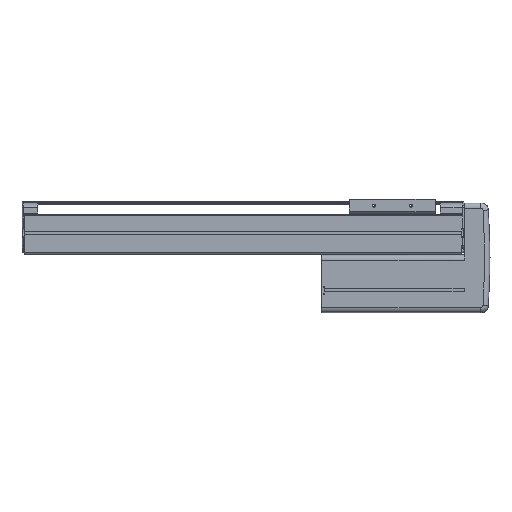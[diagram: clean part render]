
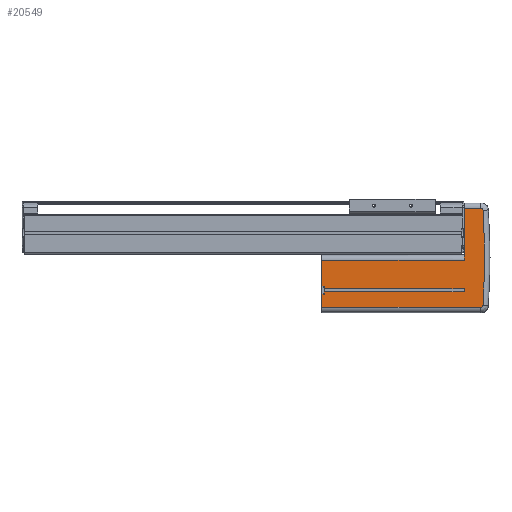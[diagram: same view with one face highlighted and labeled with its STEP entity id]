
A CAD part, top view. The second image highlights one B-rep face of the part: STEP entity #20549.
In plain terms, the highlighted planar face has unit normal (0, 0, 1).
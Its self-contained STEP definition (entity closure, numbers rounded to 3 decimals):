
#4139=DIRECTION('',(1.,0.,0.));
#4140=VECTOR('',#4139,22.587);
#4141=CARTESIAN_POINT('',(594.,-70.,33.));
#4142=LINE('',#4141,#4140);
#4151=DIRECTION('',(-1.,0.,0.));
#4152=VECTOR('',#4151,192.);
#4153=CARTESIAN_POINT('',(594.,-70.,33.));
#4154=LINE('',#4153,#4152);
#4155=DIRECTION('',(0.,-1.,0.));
#4156=VECTOR('',#4155,17.5);
#4157=CARTESIAN_POINT('',(402.,-52.5,33.));
#4158=LINE('',#4157,#4156);
#4159=DIRECTION('',(0.,-1.,0.));
#4160=VECTOR('',#4159,3.4);
#4161=CARTESIAN_POINT('',(405.,-49.1,33.));
#4162=LINE('',#4161,#4160);
#4163=DIRECTION('',(0.,1.,0.));
#4164=VECTOR('',#4163,4.2);
#4165=CARTESIAN_POINT('',(594.,-49.1,33.));
#4166=LINE('',#4165,#4164);
#4167=DIRECTION('',(0.,-1.,0.));
#4168=VECTOR('',#4167,3.4);
#4169=CARTESIAN_POINT('',(405.,-41.5,33.));
#4170=LINE('',#4169,#4168);
#4171=DIRECTION('',(0.,-1.,0.));
#4172=VECTOR('',#4171,35.5);
#4173=CARTESIAN_POINT('',(402.,-6.,33.));
#4174=LINE('',#4173,#4172);
#4175=DIRECTION('',(0.,1.,0.));
#4176=VECTOR('',#4175,70.);
#4177=CARTESIAN_POINT('',(594.,-6.,33.));
#4178=LINE('',#4177,#4176);
#4179=CARTESIAN_POINT('',(616.587,60.999,33.));
#4180=DIRECTION('',(0.,0.,-1.));
#4181=DIRECTION('',(0.,1.,0.));
#4182=AXIS2_PLACEMENT_3D('',#4179,#4180,#4181);
#4184=CARTESIAN_POINT('',(-371.,-3.,33.));
#4185=DIRECTION('',(0.,0.,-1.));
#4186=DIRECTION('',(0.998,0.065,0.));
#4187=AXIS2_PLACEMENT_3D('',#4184,#4185,#4186);
#4189=CARTESIAN_POINT('',(616.587,-66.999,33.));
#4190=DIRECTION('',(0.,0.,-1.));
#4191=DIRECTION('',(0.998,-0.065,0.));
#4192=AXIS2_PLACEMENT_3D('',#4189,#4190,#4191);
#4194=DIRECTION('',(-1.,0.,0.));
#4195=VECTOR('',#4194,3.);
#4196=CARTESIAN_POINT('',(405.,-52.5,33.));
#4197=LINE('',#4196,#4195);
#4226=DIRECTION('',(1.,0.,0.));
#4227=VECTOR('',#4226,3.);
#4228=CARTESIAN_POINT('',(402.,-41.5,33.));
#4229=LINE('',#4228,#4227);
#4234=DIRECTION('',(-1.,0.,0.));
#4235=VECTOR('',#4234,189.);
#4236=CARTESIAN_POINT('',(594.,-49.1,33.));
#4237=LINE('',#4236,#4235);
#4322=DIRECTION('',(1.,0.,0.));
#4323=VECTOR('',#4322,189.);
#4324=CARTESIAN_POINT('',(405.,-44.9,33.));
#4325=LINE('',#4324,#4323);
#4331=DIRECTION('',(-1.,0.,0.));
#4332=VECTOR('',#4331,192.);
#4333=CARTESIAN_POINT('',(594.,-6.,33.));
#4334=LINE('',#4333,#4332);
#9246=DIRECTION('',(-1.,0.,0.));
#9247=VECTOR('',#9246,22.587);
#9248=CARTESIAN_POINT('',(616.587,64.,33.));
#9249=LINE('',#9248,#9247);
#12208=CARTESIAN_POINT('',(402.,-6.,33.));
#12209=CARTESIAN_POINT('',(402.,-41.5,33.));
#12210=VERTEX_POINT('',#12208);
#12211=VERTEX_POINT('',#12209);
#12220=CARTESIAN_POINT('',(402.,-52.5,33.));
#12221=VERTEX_POINT('',#12220);
#12222=CARTESIAN_POINT('',(402.,-70.,33.));
#12223=VERTEX_POINT('',#12222);
#12449=CARTESIAN_POINT('',(594.,64.,33.));
#12451=VERTEX_POINT('',#12449);
#12464=CARTESIAN_POINT('',(616.587,-70.,
33.));
#12465=VERTEX_POINT('',#12464);
#12466=CARTESIAN_POINT('',(619.582,-67.194,
33.));
#12467=VERTEX_POINT('',#12466);
#12468=CARTESIAN_POINT('',(619.582,61.194,33.));
#12469=VERTEX_POINT('',#12468);
#12470=CARTESIAN_POINT('',(616.587,64.,33.));
#12471=VERTEX_POINT('',#12470);
#12694=CARTESIAN_POINT('',(405.,-44.9,33.));
#12696=VERTEX_POINT('',#12694);
#12707=CARTESIAN_POINT('',(405.,-49.1,33.));
#12708=VERTEX_POINT('',#12707);
#14925=CARTESIAN_POINT('',(405.,-52.5,33.));
#14927=VERTEX_POINT('',#14925);
#14935=CARTESIAN_POINT('',(405.,-41.5,33.));
#14936=VERTEX_POINT('',#14935);
#15103=CARTESIAN_POINT('',(594.,-6.,33.));
#15104=VERTEX_POINT('',#15103);
#15105=CARTESIAN_POINT('',(594.,-44.9,33.));
#15106=VERTEX_POINT('',#15105);
#15107=CARTESIAN_POINT('',(594.,-49.1,33.));
#15108=VERTEX_POINT('',#15107);
#15109=CARTESIAN_POINT('',(594.,-70.,33.));
#15110=VERTEX_POINT('',#15109);
#20518=CARTESIAN_POINT('',(499.5,-25.45,33.));
#20519=DIRECTION('',(0.,0.,1.));
#20520=DIRECTION('',(0.,1.,0.));
#20521=AXIS2_PLACEMENT_3D('',#20518,#20519,#20520);
#20522=PLANE('',#20521);
#20523=ORIENTED_EDGE('',*,*,#20509,.F.);
#20524=ORIENTED_EDGE('',*,*,#20507,.T.);
#20525=ORIENTED_EDGE('',*,*,#15668,.F.);
#20527=ORIENTED_EDGE('',*,*,#20526,.F.);
#20528=ORIENTED_EDGE('',*,*,#17091,.F.);
#20530=ORIENTED_EDGE('',*,*,#20529,.F.);
#20531=ORIENTED_EDGE('',*,*,#19546,.T.);
#20533=ORIENTED_EDGE('',*,*,#20532,.F.);
#20534=ORIENTED_EDGE('',*,*,#17075,.F.);
#20536=ORIENTED_EDGE('',*,*,#20535,.F.);
#20537=ORIENTED_EDGE('',*,*,#15656,.F.);
#20539=ORIENTED_EDGE('',*,*,#20538,.F.);
#20540=ORIENTED_EDGE('',*,*,#19522,.T.);
#20542=ORIENTED_EDGE('',*,*,#20541,.F.);
#20544=ORIENTED_EDGE('',*,*,#20543,.T.);
#20545=ORIENTED_EDGE('',*,*,#20469,.T.);
#20546=ORIENTED_EDGE('',*,*,#20496,.T.);
#20547=EDGE_LOOP('',(#20523,#20524,#20525,#20527,#20528,#20530,#20531,#20533,
#20534,#20536,#20537,#20539,#20540,#20542,#20544,#20545,#20546));
#20548=FACE_OUTER_BOUND('',#20547,.F.);
#20549=ADVANCED_FACE('',(#20548),#20522,.T.);
#4183=CIRCLE('',#4182,3.001);
#4188=CIRCLE('',#4187,992.66);
#4193=CIRCLE('',#4192,3.001);
#15656=EDGE_CURVE('',#12210,#12211,#4174,.T.);
#15668=EDGE_CURVE('',#12221,#12223,#4158,.T.);
#17075=EDGE_CURVE('',#14936,#12696,#4170,.T.);
#17091=EDGE_CURVE('',#12708,#14927,#4162,.T.);
#19522=EDGE_CURVE('',#15104,#12451,#4178,.T.);
#19546=EDGE_CURVE('',#15108,#15106,#4166,.T.);
#20469=EDGE_CURVE('',#12469,#12467,#4188,.T.);
#20496=EDGE_CURVE('',#12467,#12465,#4193,.T.);
#20507=EDGE_CURVE('',#15110,#12223,#4154,.T.);
#20509=EDGE_CURVE('',#15110,#12465,#4142,.T.);
#20526=EDGE_CURVE('',#14927,#12221,#4197,.T.);
#20529=EDGE_CURVE('',#15108,#12708,#4237,.T.);
#20532=EDGE_CURVE('',#12696,#15106,#4325,.T.);
#20535=EDGE_CURVE('',#12211,#14936,#4229,.T.);
#20538=EDGE_CURVE('',#15104,#12210,#4334,.T.);
#20541=EDGE_CURVE('',#12471,#12451,#9249,.T.);
#20543=EDGE_CURVE('',#12471,#12469,#4183,.T.);
